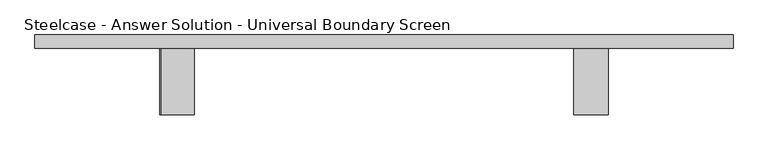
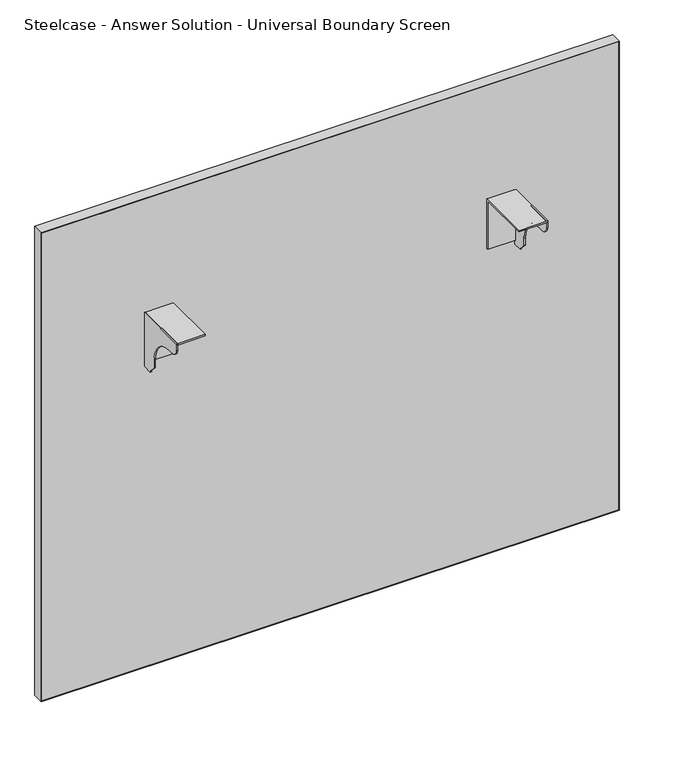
"""IFC4 building model written with IfcOpenShell, lengths in millimetres: furniture geometry, Steelcase - Answer Solution - Universal Boundary Screen : 36H x 42W."""

from ifc_helpers import new_model, si_unit, point, frame, frame_2d, origin, place, context, project, spatial, polyline, circle_curve, trimmed, segment, composite_curve, outline, extrude, source, transform, mapped, element, save


def steelcase_answer_solution_universal_boundary_screen_13998b1e(model_context):
    return source(origin(), model_context, "Body", "SweptSolid", [
        extrude(outline(polyline([(-103.1670434, 689.3558876), (-103.1670434, 692.1499758), (-1.5668826, 692.1499758), (-1.5668826, 595.5029317), (-4.1079736, 595.5029317), (-4.1079736, 689.3558876), (-103.1670434, 689.3558876)])), frame((819.6336711, 0.0, 0.0), z_axis=(1.0, 0.0, 0.0), x_axis=(0.0, 1.0, 0.0)), (0.0, 0.0, 1.0), 53.3444116),
        extrude(outline(composite_curve([segment(polyline([(-103.1670434, 679.2814802), (-103.1670434, 692.1499758), (-1.5668826, 692.1499758), (-1.5668826, 586.9634093), (-19.8232934, 586.9634093), (-19.8232934, 589.7574248), (-32.0458032, 601.9799346), (-32.0458032, 615.7814802)]), True, "CONTINUOUS"), segment(trimmed(circle_curve(frame_2d((-82.8458032, 615.7814802)), 50.8), [point((-32.0458032, 615.7814802))], [point((-82.8458032, 666.5814802))], True, "CARTESIAN"), True, "CONTINUOUS"), segment(polyline([(-82.8458032, 666.5814802), (-90.4670434, 666.5814802)]), True, "CONTINUOUS"), segment(trimmed(circle_curve(frame_2d((-90.4670434, 679.2814802)), 12.7), [point((-90.4670434, 666.5814802))], [point((-103.1670434, 679.2814802))], False, "CARTESIAN"), True, "CONTINUOUS")], self_intersect=False)), frame((870.4328959, 0.0, 0.0), z_axis=(1.0, 0.0, 0.0), x_axis=(0.0, 1.0, 0.0)), (0.0, 0.0, 1.0), 2.5451868),
        extrude(outline(polyline([(-103.1670434, 689.3558876), (-103.1670434, 692.1499758), (-1.5668826, 692.1499758), (-1.5668826, 595.5029317), (-4.1079736, 595.5029317), (-4.1079736, 689.3558876), (-103.1670434, 689.3558876)])), frame((189.7232694, 0.0, 0.0), z_axis=(1.0, 0.0, 0.0), x_axis=(0.0, 1.0, 0.0)), (0.0, 0.0, 1.0), 50.7992249),
        extrude(outline(composite_curve([segment(polyline([(-103.1670434, 679.2814802), (-103.1670434, 692.1499758), (-1.5668826, 692.1499758), (-1.5668826, 586.9634093), (-19.8232934, 586.9634093), (-19.8232934, 589.7574248), (-32.0458032, 601.9799346), (-32.0458032, 615.7814802)]), True, "CONTINUOUS"), segment(trimmed(circle_curve(frame_2d((-82.8458032, 615.7814802)), 50.8), [point((-32.0458032, 615.7814802))], [point((-82.8458032, 666.5814802))], True, "CARTESIAN"), True, "CONTINUOUS"), segment(polyline([(-82.8458032, 666.5814802), (-90.4670434, 666.5814802)]), True, "CONTINUOUS"), segment(trimmed(circle_curve(frame_2d((-90.4670434, 679.2814802)), 12.7), [point((-90.4670434, 666.5814802))], [point((-103.1670434, 679.2814802))], False, "CARTESIAN"), True, "CONTINUOUS")], self_intersect=False)), frame((187.1780827, 0.0, 0.0), z_axis=(1.0, 0.0, 0.0), x_axis=(0.0, 1.0, 0.0)), (0.0, 0.0, 1.0), 2.5451868),
        extrude(outline(polyline([(-2.3293422, 18.9055112), (1062.4855076, 18.9055112), (1062.4855076, -1.5668826), (-2.3293422, -1.5668826), (-2.3293422, 18.9055112)])), frame((0.0, 0.0, 1.016), z_axis=(0.0, 0.0, 1.0), x_axis=(1.0, 0.0, 0.0)), (0.0, 0.0, 1.0), 912.3914249),
        extrude(outline(polyline([(914.4, 1063.4780827), (914.4, -3.3219173), (0.0, -3.3219173), (0.0, 1063.4780827), (914.4, 1063.4780827)]), holes=[polyline([(913.4074249, 1062.4855076), (1.016, 1062.4855076), (1.016, -2.3293422), (913.4074249, -2.3293422), (913.4074249, 1062.4855076)])]), frame((0.0, -1.5668826, 0.0), z_axis=(0.0, 1.0, 0.0), x_axis=(0.0, 0.0, 1.0)), (0.0, 0.0, 1.0), 20.4723938),
    ])


if __name__ == "__main__":
    model = new_model("IFC4")
    model_context = context("Model", 3, world=origin())
    ifc_project = project(units=[si_unit("LENGTHUNIT", "METRE", prefix="MILLI")], contexts=[model_context])
    site = spatial("IfcSite", under=ifc_project)
    building = spatial("IfcBuilding", under=site)
    placement = place(None, origin())
    steelcase_answer_solution_universal_boundary_screen_shape = steelcase_answer_solution_universal_boundary_screen_13998b1e(model_context)
    element("IfcFurniture", 1, ObjectType="Steelcase - Answer Solution - Universal Boundary Screen : 36H x 42W", at=placement, inside=building, context=model_context, shape_type="MappedRepresentation", body=[
        mapped(steelcase_answer_solution_universal_boundary_screen_shape, transform((0.0, 0.0, 0.0), x_axis=(1.0, 0.0, 0.0), y_axis=(0.0, 1.0, 0.0), z_axis=(0.0, 0.0, 1.0))),
    ])
    save(model, "model.ifc")
